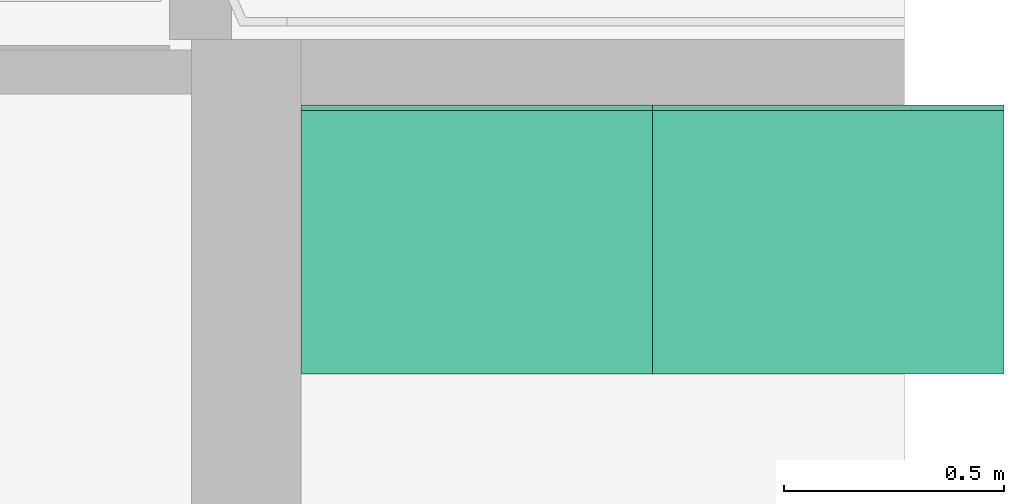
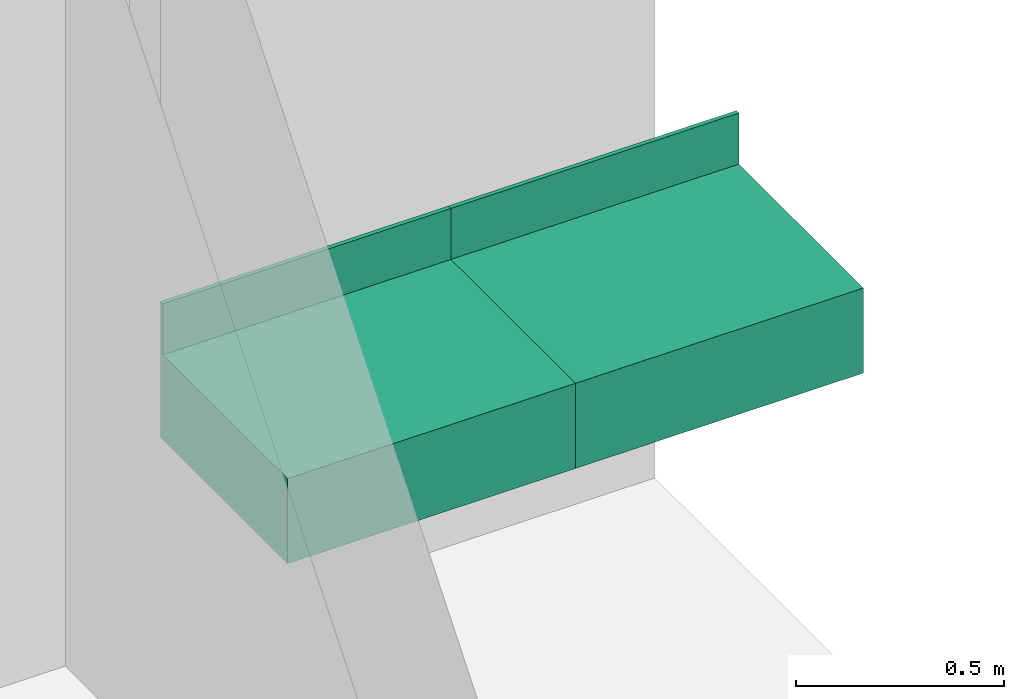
# One storey, part 32 of 37: 2 flow terminals.
"""IFC2X3 building model written with IfcOpenShell, lengths in millimetres."""

from ifc_helpers import new_model, entity, si_unit, converted_unit, derived_unit, direction, frame, origin, origin_with_axes, place, context, subcontext, project, spatial, polyline, outline, extrude, source, transform, mapped, material, type_object, element, save


model = new_model("IFC2X3")

# Units and contexts
model_context = context("Model", 3, precision=0.01, world=frame((0.0, 4.29681676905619e-09, 0.0)), true_north=direction((4.01073788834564e-13, 1.0)))
plan_context = context("Plan", 3, precision=0.01, world=frame((0.0, 4.29681676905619e-09, 0.0)), true_north=direction((4.01073788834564e-13, 1.0)))
body_context = subcontext(model_context, "Body", "Model", "MODEL_VIEW")
ifc_project = project(units=[converted_unit("PLANEANGLEUNIT", "DEGREE", entity("IfcPositiveLengthMeasure", 0.0174532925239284), si_unit("PLANEANGLEUNIT", "RADIAN"), dimensions=[0, 0, 0, 0, 0, 0, 0]), si_unit("AREAUNIT", "SQUARE_METRE"), si_unit("LENGTHUNIT", "METRE", prefix="MILLI"), si_unit("MASSUNIT", "GRAM", prefix="KILO"), si_unit("POWERUNIT", "WATT"), si_unit("PRESSUREUNIT", "PASCAL"), si_unit("FORCEUNIT", "NEWTON", prefix="KILO"), si_unit("ELECTRICVOLTAGEUNIT", "VOLT"), si_unit("ELECTRICCURRENTUNIT", "AMPERE"), si_unit("THERMODYNAMICTEMPERATUREUNIT", "DEGREE_CELSIUS"), si_unit("TIMEUNIT", "SECOND"), si_unit("VOLUMEUNIT", "CUBIC_METRE"), derived_unit("LINEARVELOCITYUNIT", [(si_unit("LENGTHUNIT", "METRE"), 1), (si_unit("TIMEUNIT", "SECOND"), -1)]), derived_unit("VOLUMETRICFLOWRATEUNIT", [(si_unit("VOLUMEUNIT", "CUBIC_METRE"), 1), (si_unit("TIMEUNIT", "SECOND"), -1)]), derived_unit("THERMALTRANSMITTANCEUNIT", [(si_unit("POWERUNIT", "WATT"), 1), (si_unit("THERMODYNAMICTEMPERATUREUNIT", "KELVIN"), -1), (si_unit("AREAUNIT", "SQUARE_METRE"), -1)]), derived_unit("SOUNDPRESSUREUNIT", [(si_unit("PRESSUREUNIT", "PASCAL"), 1)])], contexts=[model_context, plan_context])

# Site, building, storey
site_placement = place(None, origin_with_axes())
site = spatial("IfcSite", under=ifc_project, at=site_placement, Name="ENGM", CompositionType="ELEMENT")
building_placement = place(site_placement, origin_with_axes())
building = spatial("IfcBuilding", under=site, at=building_placement, Name="TS", CompositionType="ELEMENT")
storey_placement = place(building_placement, frame((0.0, 0.0, 210900.0), z_axis=(0.0, 0.0, 1.0), x_axis=(1.0, 0.0, 0.0)))
storey = spatial("IfcBuildingStorey", under=building, at=storey_placement, Name="Nivå F", CompositionType="ELEMENT", Elevation=210900.0)

# Flow terminals
ifc_material = material(Name="NSW - våtrom silver")
distribution_element_type = type_object("IfcDistributionElementType", Name="A313 - Vaskgruppe x1:A313 - Vaskgruppe - 800 x 600mm", material=ifc_material)
shared_shape = source(origin(), body_context, "Body", "SweptSolid", [
    extrude(outline(polyline([(-404.0, 33.3333333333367), (-404.0, -216.666666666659), (208.0, -216.666666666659), (208.0, 183.333333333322), (196.0, 183.333333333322), (196.0, 33.3333333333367), (-404.0, 33.3333333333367)])), frame((-200.0, 283.0, 816.666666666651), z_axis=(-1.0, 0.0, 0.0), x_axis=(0.0, -1.0, 0.0)), (0.0, 0.0, -1.0), 800.0),
])
for number, where, z_axis, x_axis in (
    (1, (535546.99999998, 461224.300000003, 0.0), (0.0, 0.0, 1.0), (-1.0, 0.0, 0.0)),
    (2, (536346.99999998, 461224.300000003, 0.0), (0.0, 0.0, 1.0), (-1.0, 0.0, 0.0)),
):
    element("IfcFlowTerminal", number, at=place(storey_placement, frame(where, z_axis=z_axis, x_axis=x_axis)), inside=storey, type_object=distribution_element_type, material=ifc_material, Name="A313 - Vaskgruppe x1:A313 - Vaskgruppe - 800 x 600mm", ObjectType="A313 - Vaskgruppe x1:A313 - Vaskgruppe - 800 x 600mm", context=body_context, shape_type="MappedRepresentation", body=[
        mapped(shared_shape, transform((0.0, 0.0, 0.0), scale=1.0)),
    ])

save(model, "model.ifc")
